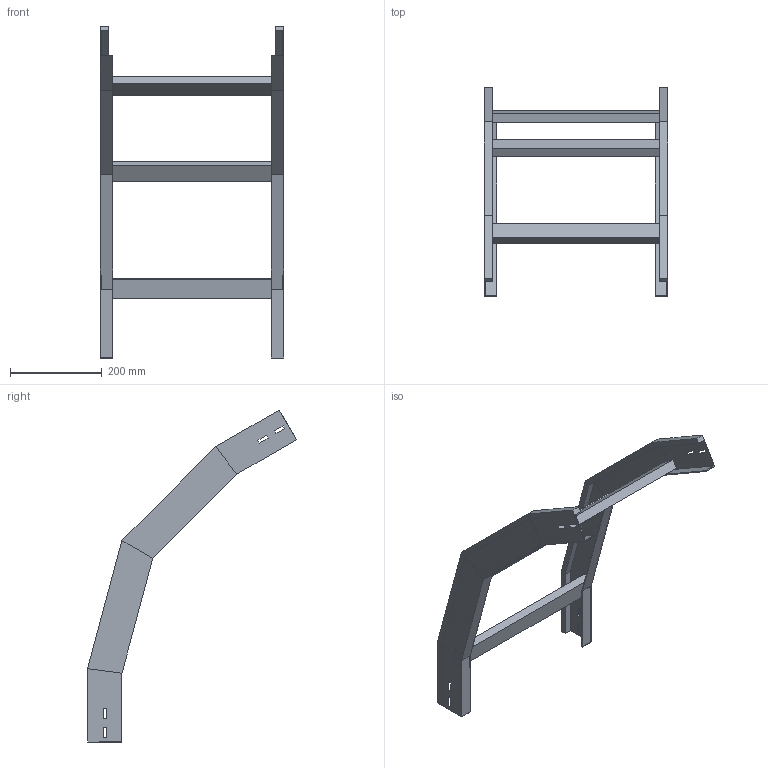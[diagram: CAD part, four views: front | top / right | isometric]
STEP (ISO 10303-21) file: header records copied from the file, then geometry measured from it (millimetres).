
FILE_DESCRIPTION (( 'STEP AP214' ), '1' );
FILE_NAME ('41B5C400.step', '2025-02-21T14:59:27', ( '' ), ( '' ), 'SwSTEP 2.0', 'SolidWorks 2023', '' );
FILE_SCHEMA (( 'AUTOMOTIVE_DESIGN' ));
Length unit declared in the file: millimetre
Products named in the file (3): TRAVERSINO_400; 41B5C400; LONGH.DISCESA_60°_H75_R500
Assembly tree (5 placements, depth 2):
  41B5C400
    LONGH.DISCESA_60°_H75_R500  x2
    TRAVERSINO_400  x3
Bounding box: 400 x 455.08 x 723.27 mm (x, y, z)
Volume: 1641339.7 mm3; surface area: 551806.3 mm2
Topology: 5 solids, 5 shells, 118 faces, 276 edges, 168 vertices
Faces by surface type: plane 118
Entity records: 1672 total; most frequent: CARTESIAN_POINT 276, ORIENTED_EDGE 264, DIRECTION 260, EDGE_CURVE 132, VECTOR 132, LINE 132, VERTEX_POINT 80, AXIS2_PLACEMENT_3D 64
